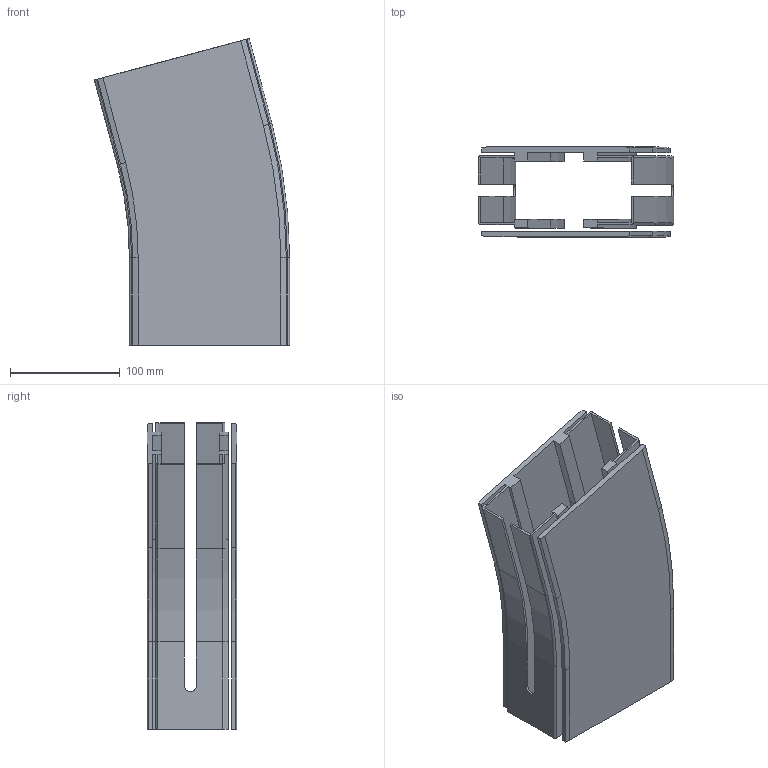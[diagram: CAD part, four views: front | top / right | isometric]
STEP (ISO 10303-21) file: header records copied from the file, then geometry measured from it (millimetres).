
FILE_DESCRIPTION((''),'2;1');
FILE_NAME('C:\Vault Klient\Projekt\Koncept konstruktion\Serie 540 Balk\540-5230.stp','2010-11-24T13:42:09',('Mathias'),(''),'Autodesk Inventor 2011','Autodesk Inventor 2011','');
FILE_SCHEMA(('AUTOMOTIVE_DESIGN { 1 0 10303 214 1 1 1 1 }'));
Length unit declared in the file: millimetre
Products named in the file (1): 540-5230
Bounding box: 177.85 x 82 x 279.7 mm (x, y, z)
Volume: 597284.9 mm3; surface area: 310554.6 mm2
Topology: 2 solids, 2 shells, 159 faces, 434 edges, 284 vertices
Faces by surface type: plane 103, cylinder 32, bspline 14, cone 6, torus 4
Entity records: 5158 total; most frequent: CARTESIAN_POINT 1072, ORIENTED_EDGE 868, DIRECTION 774, EDGE_CURVE 434, VECTOR 330, LINE 330, VERTEX_POINT 284, AXIS2_PLACEMENT_3D 222
